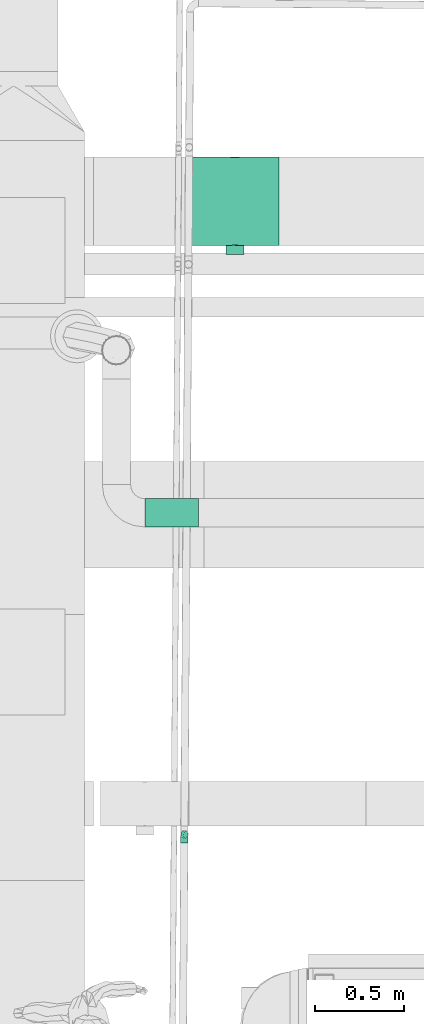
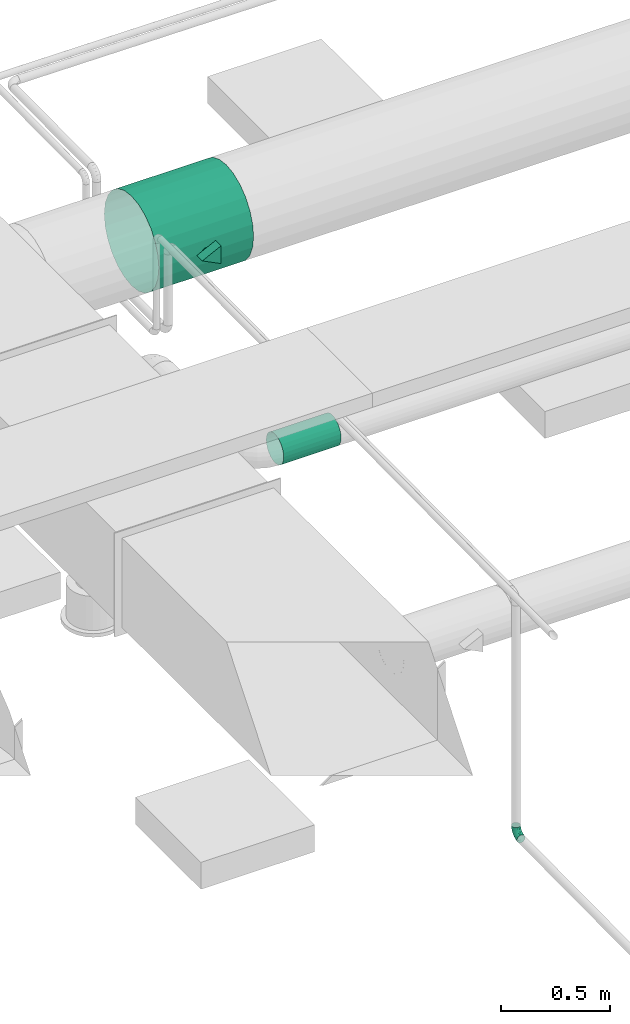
# One storey, part 314 of 374: 2 flow segments, 1 flow controller.
"""IFC2X3 building model written with IfcOpenShell, lengths in metres."""

from ifc_helpers import new_model, si_unit, direction, origin, place, context, subcontext, project, spatial, open_shell, surface_model, source, transform, mapped, element, save


model = new_model("IFC2X3")

# Units and contexts
model_context = context("Model", 3, precision=1e-05, world=origin(), true_north=direction((-0.4480736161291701, 0.8939966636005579)))
body_context = subcontext(model_context, "Body", "Model", "MODEL_VIEW")
ifc_project = project(units=[si_unit("LENGTHUNIT", "METRE"), si_unit("AREAUNIT", "SQUARE_METRE"), si_unit("VOLUMEUNIT", "CUBIC_METRE"), si_unit("PLANEANGLEUNIT", "RADIAN"), si_unit("THERMODYNAMICTEMPERATUREUNIT", "KELVIN"), si_unit("MASSUNIT", "GRAM", prefix="KILO"), si_unit("TIMEUNIT", "SECOND")], contexts=[model_context])

# Site, building, storey
site_placement = place(None, origin())
site = spatial("IfcSite", under=ifc_project, at=site_placement, Name="Site 1", CompositionType="ELEMENT")
building_placement = place(site_placement, origin())
building = spatial("IfcBuilding", under=site, at=building_placement, Name="Undefined", CompositionType="ELEMENT")
storey_placement = place(building_placement, origin())
storey = spatial("IfcBuildingStorey", under=building, at=storey_placement, Name="Rez de chauss\x8ee", CompositionType="ELEMENT", Elevation=0.0)

# Flow controller
shared_shape_1 = source(origin(), body_context, "Body", "SurfaceModel", [
    surface_model("IfcFaceBasedSurfaceModel", [(0.06561793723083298, 0.0, -4.4408921e-16), (0.07081075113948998, 0.04972961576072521, -4.4408921e-16), (0.005900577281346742, 0.056507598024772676, -4.4408921e-16), (0.0, 0.0, 0.0), (-0.056797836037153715, 0.0630546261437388, -0.01689133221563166), (-0.06477347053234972, -0.01332501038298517, -0.01689133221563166), (-0.11301169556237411, 0.0689245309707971, -0.04952288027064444), (-0.12428826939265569, -0.03906695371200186, -0.04952288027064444), (-0.1589101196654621, 0.07371728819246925, -0.09567085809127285), (-0.17448856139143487, -0.07547155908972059, -0.09567085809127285), (-0.19136520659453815, 0.07710627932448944, -0.15219035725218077), (-0.2119532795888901, -0.12005791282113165, -0.15219035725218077), (-0.20816519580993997, 0.0788605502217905, -0.21522966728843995), (-0.23412926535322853, -0.16978752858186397, -0.21522966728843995), (-0.20816519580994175, 0.0788605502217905, -0.2804927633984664), (-0.23950526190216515, -0.22127141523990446, -0.2804927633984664), (-0.1913652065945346, 0.07710627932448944, -0.3435320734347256), (-0.22771490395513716, -0.27100103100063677, -0.3435320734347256), (-0.15891011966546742, 0.07371728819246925, -0.40005157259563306), (-0.19956168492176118, -0.31558738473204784, -0.40005157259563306), (-0.11301169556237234, 0.0689245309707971, -0.4461995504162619), (-0.1569642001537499, -0.3519919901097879, -0.4461995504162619), (-0.05679783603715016, 0.0630546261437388, -0.47883109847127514), (-0.10282539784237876, -0.37773393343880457, -0.47883109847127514), (0.005900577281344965, 0.056507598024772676, -0.49572243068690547), (-0.040834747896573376, -0.39105894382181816, -0.49572243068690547), (0.0708107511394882, 0.04972961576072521, -0.49572243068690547), (0.024783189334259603, -0.39105894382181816, -0.49572243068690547), (0.13350916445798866, 0.04318258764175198, -0.47883109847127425), (0.0895566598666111, -0.377733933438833, -0.47883109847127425), (0.18972302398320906, 0.03731268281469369, -0.44619955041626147), (0.1490714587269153, -0.3519919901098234, -0.44619955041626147), (0.23562144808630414, 0.03251992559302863, -0.40005157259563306), (0.19927175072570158, -0.3155873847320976, -0.40005157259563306), (0.2680765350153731, 0.029130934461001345, -0.34353207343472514), (0.2367364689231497, -0.2710010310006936, -0.34353207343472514), (0.28487652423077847, 0.027376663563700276, -0.2804927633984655), (0.2589124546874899, -0.2212714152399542, -0.2804927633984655), (0.2848765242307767, 0.027376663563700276, -0.2152296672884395), (0.26428845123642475, -0.1697875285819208, -0.2152296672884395), (0.26807653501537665, 0.02913093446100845, -0.15219035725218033), (0.25249809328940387, -0.12005791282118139, -0.15219035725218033), (0.23562144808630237, 0.032519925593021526, -0.09567085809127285), (0.2243448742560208, -0.07547155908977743, -0.09567085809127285), (0.18972302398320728, 0.03731268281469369, -0.049522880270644), (0.18174738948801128, -0.03906695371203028, -0.049522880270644), (0.1335091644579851, 0.043182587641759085, -0.016891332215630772), (0.12760858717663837, -0.013325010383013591, -0.016891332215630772), (0.01888261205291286, -0.44756654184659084, -4.4408921e-16), (-0.04602756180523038, -0.44078855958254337, -4.4408921e-16), (-0.10872597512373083, -0.43424153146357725, -0.01689133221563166), (-0.16493983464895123, -0.42837162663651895, -0.04952288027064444), (-0.2108382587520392, -0.4235788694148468, -0.09567085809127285), (-0.24329334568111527, -0.4201898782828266, -0.15219035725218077), (-0.2600933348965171, -0.41843560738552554, -0.21522966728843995), (-0.26009333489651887, -0.41843560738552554, -0.2804927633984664), (-0.24329334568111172, -0.4201898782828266, -0.3435320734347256), (-0.21083825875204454, -0.4235788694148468, -0.40005157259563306), (-0.16493983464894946, -0.42837162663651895, -0.4461995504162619), (-0.10872597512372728, -0.43424153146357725, -0.47883109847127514), (-0.04602756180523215, -0.44078855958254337, -0.49572243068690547), (0.018882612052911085, -0.44756654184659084, -0.49572243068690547), (0.08158102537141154, -0.45411356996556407, -0.47883109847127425), (0.13779488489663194, -0.45998347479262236, -0.44619955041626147), (0.18369330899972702, -0.4647762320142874, -0.40005157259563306), (0.21614839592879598, -0.4681652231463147, -0.34353207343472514), (0.23294838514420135, -0.46991949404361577, -0.2804927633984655), (0.23294838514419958, -0.46991949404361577, -0.2152296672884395), (0.21614839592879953, -0.4681652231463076, -0.15219035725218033), (0.18369330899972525, -0.4647762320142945, -0.09567085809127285), (0.13779488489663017, -0.45998347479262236, -0.049522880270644), (0.08158102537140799, -0.45411356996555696, -0.016891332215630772), (0.2621579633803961, -0.22161031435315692, -0.2557066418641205), (0.2627193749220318, -0.21516328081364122, -0.25655120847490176), (-0.23032234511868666, -0.163679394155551, -0.1912881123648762), (-0.23088375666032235, -0.1701264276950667, -0.19044354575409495), (0.2630213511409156, -0.20913250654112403, -0.2590273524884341), (-0.23002036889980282, -0.1576486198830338, -0.19376425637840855), (0.2630433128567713, -0.20392897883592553, -0.2629663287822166), (-0.22999840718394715, -0.1524450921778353, -0.19770323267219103), (0.262783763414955, -0.1999073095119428, -0.268099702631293), (-0.23025795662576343, -0.14842342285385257, -0.20283660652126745), (0.2622603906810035, -0.197341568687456, -0.27407764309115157), (-0.23078132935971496, -0.14585768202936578, -0.208814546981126), (0.2615088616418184, -0.1964066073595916, -0.2804927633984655), (-0.23153285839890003, -0.14492272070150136, -0.21522966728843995), (0.2605803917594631, -0.1971661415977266, -0.2869078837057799), (-0.23246132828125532, -0.14568225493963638, -0.22164478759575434), (0.25953825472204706, -0.19956841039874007, -0.29288582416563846), (-0.2335034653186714, -0.14808452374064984, -0.2276227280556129), (0.2584534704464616, -0.20344970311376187, -0.2980191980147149), (-0.23458824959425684, -0.15196581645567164, -0.23275610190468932), (0.2573999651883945, -0.20854551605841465, -0.30195817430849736), (-0.23564175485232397, -0.15706162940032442, -0.2366950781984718), (0.25644953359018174, -0.21450857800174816, -0.3044343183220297), (-0.2365921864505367, -0.16302469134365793, -0.23917122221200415), (0.25566694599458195, -0.22093251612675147, -0.30527888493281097), (-0.2373747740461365, -0.16944862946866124, -0.2400157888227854), (0.25510553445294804, -0.22737954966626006, -0.3044343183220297), (-0.2379361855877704, -0.17589566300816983, -0.23917122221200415), (0.2548035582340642, -0.23341032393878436, -0.30195817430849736), (-0.23823816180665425, -0.18192643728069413, -0.2366950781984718), (0.2547815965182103, -0.23861385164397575, -0.2980191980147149), (-0.23826012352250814, -0.18712996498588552, -0.23275610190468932), (0.2550411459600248, -0.2426355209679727, -0.29288582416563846), (-0.23800057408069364, -0.19115163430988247, -0.2276227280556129), (0.25556451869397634, -0.2452012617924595, -0.2869078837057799), (-0.2374772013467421, -0.19371737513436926, -0.22164478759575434), (0.2563160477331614, -0.2461362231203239, -0.2804927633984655), (-0.23672567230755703, -0.19465233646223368, -0.21522966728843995), (0.2572445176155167, -0.2453766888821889, -0.27407764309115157), (-0.23579720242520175, -0.19389280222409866, -0.208814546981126), (0.25828665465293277, -0.24297442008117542, -0.268099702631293), (-0.23475506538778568, -0.1914905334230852, -0.20283660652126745), (0.25937143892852, -0.2390931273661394, -0.2629663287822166), (-0.23367028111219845, -0.18760924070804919, -0.19770323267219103), (0.26042494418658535, -0.23399731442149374, -0.2590273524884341), (-0.2326167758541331, -0.1825134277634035, -0.19376425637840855), (0.2613753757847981, -0.22803425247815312, -0.25655120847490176), (-0.23166634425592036, -0.1765503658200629, -0.1912881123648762), (-0.24581309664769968, -0.21883934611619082, -0.26480191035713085), (-0.2328310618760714, -0.22019494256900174, -0.1656574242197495), (-0.2821352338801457, -0.21504655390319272, -0.15913111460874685), (-0.295117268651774, -0.2136909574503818, -0.2582756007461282), (-0.22893645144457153, -0.12005791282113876, -0.21522966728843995), (-0.27824062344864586, -0.11490952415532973, -0.2087033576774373)], [open_shell([[[0, 1, 2, 3]], [[3, 2, 4, 5]], [[5, 4, 6, 7]], [[7, 6, 8, 9]], [[9, 8, 10, 11]], [[11, 10, 12, 13]], [[13, 12, 14, 15]], [[15, 14, 16, 17]], [[17, 16, 18, 19]], [[19, 18, 20, 21]], [[21, 20, 22, 23]], [[23, 22, 24, 25]], [[25, 24, 26, 27]], [[27, 26, 28, 29]], [[29, 28, 30, 31]], [[31, 30, 32, 33]], [[33, 32, 34, 35]], [[35, 34, 36, 37]], [[37, 36, 38, 39]], [[39, 38, 40, 41]], [[41, 40, 42, 43]], [[43, 42, 44, 45]], [[45, 44, 46, 47]], [[47, 46, 1, 0]], [[48, 0, 3, 49]], [[49, 3, 5, 50]], [[50, 5, 7, 51]], [[51, 7, 9, 52]], [[52, 9, 11, 53]], [[53, 11, 13, 54]], [[54, 13, 15, 55]], [[55, 15, 17, 56]], [[56, 17, 19, 57]], [[57, 19, 21, 58]], [[58, 21, 23, 59]], [[59, 23, 25, 60]], [[60, 25, 27, 61]], [[61, 27, 29, 62]], [[62, 29, 31, 63]], [[63, 31, 33, 64]], [[64, 33, 35, 65]], [[65, 35, 37, 66]], [[66, 37, 39, 67]], [[67, 39, 41, 68]], [[68, 41, 43, 69]], [[69, 43, 45, 70]], [[70, 45, 47, 71]], [[71, 47, 0, 48]], [[72, 73, 74, 75]], [[73, 76, 77, 74]], [[76, 78, 79, 77]], [[78, 80, 81, 79]], [[80, 82, 83, 81]], [[82, 84, 85, 83]], [[84, 86, 87, 85]], [[86, 88, 89, 87]], [[88, 90, 91, 89]], [[90, 92, 93, 91]], [[92, 94, 95, 93]], [[94, 96, 97, 95]], [[96, 98, 99, 97]], [[98, 100, 101, 99]], [[100, 102, 103, 101]], [[102, 104, 105, 103]], [[104, 106, 107, 105]], [[106, 108, 109, 107]], [[108, 110, 111, 109]], [[110, 112, 113, 111]], [[112, 114, 115, 113]], [[114, 116, 117, 115]], [[116, 118, 119, 117]], [[118, 72, 75, 119]], [[37, 73, 72]], [[37, 76, 73]], [[37, 78, 76]], [[37, 80, 78]], [[37, 82, 80]], [[37, 84, 82]], [[37, 86, 84]], [[37, 88, 86]], [[37, 90, 88]], [[37, 92, 90]], [[37, 94, 92]], [[37, 96, 94]], [[37, 98, 96]], [[37, 100, 98]], [[37, 102, 100]], [[37, 104, 102]], [[37, 106, 104]], [[37, 108, 106]], [[37, 110, 108]], [[37, 112, 110]], [[37, 114, 112]], [[37, 116, 114]], [[37, 118, 116]], [[37, 72, 118]], [[13, 119, 75]], [[13, 117, 119]], [[13, 115, 117]], [[13, 113, 115]], [[13, 111, 113]], [[13, 109, 111]], [[13, 107, 109]], [[13, 105, 107]], [[13, 103, 105]], [[13, 101, 103]], [[13, 99, 101]], [[13, 97, 99]], [[13, 95, 97]], [[13, 93, 95]], [[13, 91, 93]], [[13, 89, 91]], [[13, 87, 89]], [[13, 85, 87]], [[13, 83, 85]], [[13, 81, 83]], [[13, 79, 81]], [[13, 77, 79]], [[13, 74, 77]], [[13, 75, 74]], [[120, 121, 122, 123]], [[121, 124, 125, 122]], [[124, 120, 123, 125]], [[123, 122, 125]], [[124, 121, 120]]])]),
])
flow_controller_placement = place(storey_placement, origin())
element("IfcFlowController", 1, at=flow_controller_placement, inside=storey, Name="Clapet de réglage cylindrique", ObjectType="Clapet de réglage cylindrique", context=body_context, shape_type="MappedRepresentation", body=[
    mapped(shared_shape_1, transform((52.991809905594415, 17.649561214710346, 4.041481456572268), x_axis=(-0.10385627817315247, 0.9860834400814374, 0.12982034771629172), y_axis=(-0.9945923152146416, -0.10296777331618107, -0.013555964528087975), z_axis=(0.0, -0.1305261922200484, 0.9914448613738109))),
])

# Flow segments
shared_shape_2 = source(origin(), body_context, "Body", "SurfaceModel", [
    surface_model("IfcFaceBasedSurfaceModel", [(0.0, 0.020884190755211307, 0.0), (0.0, 0.0, 0.0), (0.30333805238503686, 3.552713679e-15, 0.0), (0.30333805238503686, 0.02088419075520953, 0.0), (0.0, -0.020172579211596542, -0.005405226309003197), (0.30333805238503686, -0.02017257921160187, -0.005405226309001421), (0.0, -0.03825881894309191, -0.015847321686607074), (0.30333805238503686, -0.03825881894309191, -0.01584732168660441), (0.0, -0.05302617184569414, -0.0306146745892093), (0.30333805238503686, -0.05302617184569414, -0.030614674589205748), (0.0, -0.06346826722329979, -0.04870091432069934), (0.30333805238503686, -0.06346826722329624, -0.04870091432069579), (0.0, -0.06887349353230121, -0.06887349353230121), (0.30333805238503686, -0.06887349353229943, -0.06887349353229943), (0.0, -0.06887349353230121, -0.08975768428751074), (0.30333805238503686, -0.06887349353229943, -0.08975768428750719), (0.0, -0.06346826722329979, -0.10993026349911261), (0.30333805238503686, -0.06346826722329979, -0.10993026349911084), (0.0, -0.05302617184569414, -0.12801650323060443), (0.30333805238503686, -0.05302617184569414, -0.12801650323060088), (0.0, -0.038258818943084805, -0.14278385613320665), (0.30333805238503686, -0.038258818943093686, -0.1427838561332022), (0.0, -0.020172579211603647, -0.15322595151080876), (0.30333805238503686, -0.02017257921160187, -0.15322595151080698), (0.0, 7.105427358e-15, -0.15863117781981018), (0.30333805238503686, 0.0, -0.1586311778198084), (0.0, 0.020884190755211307, -0.15863117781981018), (0.30333805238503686, 0.020884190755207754, -0.1586311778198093), (0.0, 0.04105676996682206, -0.15322595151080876), (0.30333805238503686, 0.041056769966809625, -0.15322595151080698), (0.0, 0.05914300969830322, -0.1427838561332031), (0.30333805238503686, 0.05914300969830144, -0.142783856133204), (0.0, 0.07391036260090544, -0.12801650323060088), (0.30333805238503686, 0.07391036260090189, -0.12801650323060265), (0.0, 0.0843524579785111, -0.10993026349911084), (0.30333805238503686, 0.08435245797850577, -0.10993026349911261), (0.0, 0.08975768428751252, -0.08975768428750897), (0.30333805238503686, 0.08975768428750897, -0.08975768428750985), (0.0, 0.08975768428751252, -0.06887349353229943), (0.30333805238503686, 0.08975768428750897, -0.06887349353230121), (0.0, 0.0843524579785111, -0.048700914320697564), (0.30333805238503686, 0.08435245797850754, -0.048700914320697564), (0.0, 0.07391036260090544, -0.030614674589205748), (0.30333805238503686, 0.07391036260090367, -0.030614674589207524), (0.0, 0.05914300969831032, -0.015847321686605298), (0.30333805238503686, 0.05914300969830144, -0.015847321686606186), (0.0, 0.04105676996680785, -0.005405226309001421), (0.30333805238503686, 0.04105676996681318, -0.005405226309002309)], [open_shell([[[0, 1, 2, 3]], [[1, 4, 5, 2]], [[4, 6, 7, 5]], [[6, 8, 9, 7]], [[8, 10, 11, 9]], [[10, 12, 13, 11]], [[12, 14, 15, 13]], [[14, 16, 17, 15]], [[16, 18, 19, 17]], [[18, 20, 21, 19]], [[20, 22, 23, 21]], [[22, 24, 25, 23]], [[24, 26, 27, 25]], [[26, 28, 29, 27]], [[28, 30, 31, 29]], [[30, 32, 33, 31]], [[32, 34, 35, 33]], [[34, 36, 37, 35]], [[36, 38, 39, 37]], [[38, 40, 41, 39]], [[40, 42, 43, 41]], [[42, 44, 45, 43]], [[44, 46, 47, 45]], [[46, 0, 3, 47]]])]),
])
flow_segment_1_placement = place(storey_placement, origin())
element("IfcFlowSegment", 2, at=flow_segment_1_placement, inside=storey, Name="Tube", ObjectType="Tube", context=body_context, shape_type="MappedRepresentation", body=[
    mapped(shared_shape_2, transform((52.9792401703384, 15.934292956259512, 3.7227259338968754), x_axis=(-1.0, 0.0, 0.0), y_axis=(0.0, 0.9914448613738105, -0.13052619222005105), z_axis=(9.56658874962e-13, -0.13052619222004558, -0.9914448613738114))),
])
shared_shape_3 = source(origin(), body_context, "Body", "SurfaceModel", [
    surface_model("IfcFaceBasedSurfaceModel", [(0.01806482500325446, 7.105427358e-15, 0.0), (0.017970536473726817, 0.005533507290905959, 0.0), (9.428852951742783e-05, 0.005533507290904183, 1.776356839e-15), (0.0, 0.0, 0.0), (-0.017172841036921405, 0.00613233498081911, -0.004587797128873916), (-0.01744928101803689, 0.0006051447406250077, -0.004636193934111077), (-0.03265412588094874, 0.007289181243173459, -0.013450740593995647), (-0.0330938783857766, 0.0017741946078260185, -0.013592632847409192), (-0.045294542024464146, 0.008925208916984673, -0.02598483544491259), (-0.045867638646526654, 0.0034274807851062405, -0.02625895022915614), (-0.054232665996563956, 0.010928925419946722, -0.041335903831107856), (-0.05490005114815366, 0.005452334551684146, -0.04177195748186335), (-0.05885937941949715, 0.013163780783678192, -0.05845779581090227), (-0.059575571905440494, 0.007710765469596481, -0.05907446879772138), (0.01769409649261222, 0.010875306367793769, -0.0014203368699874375), (0.00037072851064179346, 0.010875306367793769, -0.0014203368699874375), (-0.016362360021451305, 0.011455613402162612, -0.005866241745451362), (-0.03136483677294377, 0.012576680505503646, -0.014455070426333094), (-0.04361430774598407, 0.014162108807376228, -0.026601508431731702), (-0.05227599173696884, 0.016103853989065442, -0.0414777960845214), (-0.05675960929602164, 0.018269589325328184, -0.05807013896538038), (0.017254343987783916, 0.015661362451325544, -0.0041642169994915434), (0.0008104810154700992, 0.015661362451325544, -0.004164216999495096), (-0.01507307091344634, 0.016212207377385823, -0.008384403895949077), (-0.029313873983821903, 0.01727635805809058, -0.016537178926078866), (-0.04094144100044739, 0.01878129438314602, -0.02806694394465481), (-0.049163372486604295, 0.02062445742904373, -0.042187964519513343), (-0.05341935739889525, 0.02268023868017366, -0.05793791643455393), (0.016681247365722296, 0.01956551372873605, -0.008044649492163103), (0.001383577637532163, 0.01956551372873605, -0.008044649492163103), (-0.01339283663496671, 0.020077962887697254, -0.011970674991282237), (-0.026641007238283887, 0.021067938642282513, -0.01955517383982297), (-0.03745809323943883, 0.02246797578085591, -0.03028127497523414), (-0.04510692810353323, 0.0241826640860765, -0.04341801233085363), (-0.04906625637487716, 0.026095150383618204, -0.05807013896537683), (0.016013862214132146, 0.022321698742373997, -0.012797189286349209), (0.0020509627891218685, 0.022321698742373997, -0.012797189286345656), (-0.011436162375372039, 0.02278943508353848, -0.016380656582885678), (-0.023528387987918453, 0.02369303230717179, -0.023303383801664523), (-0.03340164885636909, 0.024970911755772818, -0.03309359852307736), (-0.040383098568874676, 0.026535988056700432, -0.04508411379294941), (-0.04399696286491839, 0.028281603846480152, -0.05845779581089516), (0.015297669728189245, 0.023742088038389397, -0.018097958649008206), (0.00276715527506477, 0.023742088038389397, -0.018097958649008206), (-0.009336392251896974, 0.024161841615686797, -0.021313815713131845), (-0.02018813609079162, 0.02497274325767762, -0.0275263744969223), (-0.029048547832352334, 0.02611953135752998, -0.03631225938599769), (-0.03531380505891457, 0.027524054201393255, -0.04707272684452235), (-0.0385569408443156, 0.02909059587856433, -0.05907446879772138), (0.014581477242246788, 0.023729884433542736, -0.02358571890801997), (0.0034833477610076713, 0.023729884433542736, -0.02358571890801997), (-0.007236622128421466, 0.024101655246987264, -0.026433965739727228), (-0.016847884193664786, 0.02481986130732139, -0.03193635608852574), (-0.02469544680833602, 0.02583555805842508, -0.03971791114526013), (-0.0302445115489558, 0.027079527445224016, -0.04924833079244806), (-0.03311691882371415, 0.02846699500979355, -0.059878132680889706), (0.013914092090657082, 0.02228591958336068, -0.02888648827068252), (0.004150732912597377, 0.022285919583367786, -0.028886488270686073), (-0.005279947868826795, 0.022612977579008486, -0.031392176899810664), (-0.013735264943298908, 0.023244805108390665, -0.03623279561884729), (-0.020639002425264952, 0.02413834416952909, -0.04307846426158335), (-0.025520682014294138, 0.025232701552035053, -0.051462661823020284), (-0.028047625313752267, 0.026453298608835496, -0.060814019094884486), (0.013340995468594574, 0.01950859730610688, -0.03363902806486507), (0.0047238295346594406, 0.01950859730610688, -0.033639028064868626), (-0.0035997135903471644, 0.019797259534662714, -0.035850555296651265), (-0.011062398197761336, 0.0203549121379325, -0.04012289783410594), (-0.017155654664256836, 0.021143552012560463, -0.04616490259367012), (-0.02146423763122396, 0.022109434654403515, -0.05356481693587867), (-0.02369452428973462, 0.023186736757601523, -0.06181834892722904), (0.012901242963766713, 0.015587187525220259, -0.037519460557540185), (0.005163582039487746, 0.015587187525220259, -0.03751946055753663), (-0.0023104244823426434, 0.015846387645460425, -0.03950526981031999), (-0.009011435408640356, 0.016347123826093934, -0.043341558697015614), (-0.01448278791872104, 0.017055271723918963, -0.048766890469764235), (-0.018351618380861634, 0.017922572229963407, -0.05541153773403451), (-0.02035427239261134, 0.018889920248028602, -0.06282267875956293), (0.012624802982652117, 0.010788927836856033, -0.040263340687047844), (0.005440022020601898, 0.010788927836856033, -0.0402633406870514), (-0.0014999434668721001, 0.011029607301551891, -0.04210725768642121), (-0.007722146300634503, 0.01149456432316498, -0.045669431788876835), (-0.012802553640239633, 0.012152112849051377, -0.05070710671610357), (-0.0163949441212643, 0.012957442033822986, -0.056876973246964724), (-0.018254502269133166, 0.013855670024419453, -0.06375856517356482), (0.012530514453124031, 0.005440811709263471, -0.041683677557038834), (0.005534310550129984, 0.0054408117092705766, -0.041683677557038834), (-0.0012235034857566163, 0.005675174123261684, -0.04347919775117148), (-0.007282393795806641, 0.006127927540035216, -0.046947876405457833), (-0.012229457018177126, 0.0067682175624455, -0.05185332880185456), (-0.015727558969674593, 0.007552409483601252, -0.05786125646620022), (-0.01753830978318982, 0.008427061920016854, -0.0645622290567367), (0.012624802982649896, -9.26955816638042e-05, -0.04168367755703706), (0.005440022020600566, -9.269558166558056e-05, -0.04168367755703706), (-0.0014999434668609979, 0.00014798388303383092, -0.0435275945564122), (-0.007722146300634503, 0.0006129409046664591, -0.047089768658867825), (-0.012802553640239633, 0.001270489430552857, -0.05212744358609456), (-0.0163949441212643, 0.002075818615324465, -0.058297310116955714), (-0.018254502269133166, 0.0029740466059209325, -0.06517890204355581), (0.012901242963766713, -0.005434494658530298, -0.0402633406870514), (0.005163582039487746, -0.005434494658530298, -0.040263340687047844), (-0.0023104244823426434, -0.005175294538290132, -0.0422491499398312), (-0.009011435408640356, -0.004674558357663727, -0.046085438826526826), (-0.01448278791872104, -0.0039664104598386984, -0.051510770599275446), (-0.018351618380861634, -0.0030991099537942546, -0.05815541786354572), (-0.02035427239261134, -0.0021317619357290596, -0.06556655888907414), (0.013340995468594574, -0.010220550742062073, -0.03751946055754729), (0.0047238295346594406, -0.010220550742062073, -0.03751946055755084), (-0.0035997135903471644, -0.009931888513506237, -0.03973098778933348), (-0.011062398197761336, -0.009374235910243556, -0.04400333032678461), (-0.017155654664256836, -0.00858559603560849, -0.05004533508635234), (-0.02146423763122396, -0.007619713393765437, -0.057445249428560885), (-0.02369452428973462, -0.006542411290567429, -0.06569878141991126), (0.013914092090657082, -0.01412470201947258, -0.03363902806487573), (0.004150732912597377, -0.014124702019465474, -0.033639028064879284), (-0.005279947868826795, -0.013797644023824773, -0.036144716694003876), (-0.013735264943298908, -0.013165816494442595, -0.0409853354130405), (-0.020639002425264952, -0.012272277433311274, -0.04783100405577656), (-0.025520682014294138, -0.011177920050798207, -0.05621520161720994), (-0.028047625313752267, -0.009957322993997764, -0.0655665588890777), (0.014581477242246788, -0.01688088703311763, -0.028886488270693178), (0.0034833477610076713, -0.01688088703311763, -0.028886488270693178), (-0.007236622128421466, -0.016509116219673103, -0.031734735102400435), (-0.016847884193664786, -0.015790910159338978, -0.03723712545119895), (-0.02469544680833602, -0.014775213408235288, -0.04501868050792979), (-0.0302445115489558, -0.01353124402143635, -0.054549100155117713), (-0.03311691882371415, -0.012143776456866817, -0.06517890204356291), (0.015297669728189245, -0.01830127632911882, -0.02358571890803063), (0.00276715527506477, -0.01830127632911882, -0.02358571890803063), (-0.009336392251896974, -0.01788152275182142, -0.026801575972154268), (-0.02018813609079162, -0.017070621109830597, -0.033014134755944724), (-0.029048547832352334, -0.01592383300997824, -0.04180001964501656), (-0.03531380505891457, -0.014519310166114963, -0.05256048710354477), (-0.0385569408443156, -0.012952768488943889, -0.06456222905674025), (0.016013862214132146, -0.01828907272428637, -0.018097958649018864), (0.0020509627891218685, -0.01828907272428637, -0.018097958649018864), (-0.011436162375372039, -0.01782133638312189, -0.021681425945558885), (-0.023528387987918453, -0.016917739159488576, -0.02860415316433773), (-0.03340164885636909, -0.01563985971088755, -0.038394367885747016), (-0.040383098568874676, -0.014074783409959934, -0.05038488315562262), (-0.04399696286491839, -0.012329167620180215, -0.06375856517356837), (0.016681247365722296, -0.01684510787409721, -0.012797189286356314), (0.001383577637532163, -0.01684510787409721, -0.012797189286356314), (-0.01339283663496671, -0.016332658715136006, -0.01672321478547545), (-0.026641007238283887, -0.015342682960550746, -0.02430771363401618), (-0.03745809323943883, -0.01394264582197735, -0.03503381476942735), (-0.04510692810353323, -0.01222795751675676, -0.04817055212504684), (-0.04906625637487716, -0.010315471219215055, -0.06282267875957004), (0.017254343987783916, -0.014067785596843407, -0.008044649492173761), (0.0008104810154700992, -0.014067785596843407, -0.008044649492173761), (-0.01507307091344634, -0.013516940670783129, -0.012264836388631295), (-0.029313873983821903, -0.012452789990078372, -0.020417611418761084), (-0.04094144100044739, -0.010947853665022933, -0.03194737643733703), (-0.049163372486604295, -0.009104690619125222, -0.04606839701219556), (-0.05341935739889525, -0.007048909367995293, -0.06181834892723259), (0.01769409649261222, -0.010146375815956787, -0.004164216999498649), (0.00037072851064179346, -0.010146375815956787, -0.004164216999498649), (-0.016362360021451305, -0.009566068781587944, -0.008610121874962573), (-0.03136483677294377, -0.008445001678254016, -0.017198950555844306), (-0.04361430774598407, -0.006859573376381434, -0.029345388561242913), (-0.05227599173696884, -0.00491782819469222, -0.04422167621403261), (-0.05675960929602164, -0.002752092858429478, -0.060814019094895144), (0.017970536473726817, -0.0053481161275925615, -0.0014203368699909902), (9.428852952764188e-05, -0.005348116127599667, -0.001420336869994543), (-0.017172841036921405, -0.004749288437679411, -0.006008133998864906), (-0.03265412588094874, -0.0035924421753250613, -0.014871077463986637), (-0.045294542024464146, -0.001956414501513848, -0.02740517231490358), (-0.054232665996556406, 4.730200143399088e-05, -0.04275624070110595), (-0.05885937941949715, 0.002282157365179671, -0.05987813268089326)], [open_shell([[[0, 1, 2, 3]], [[3, 2, 4, 5]], [[5, 4, 6, 7]], [[7, 6, 8, 9]], [[9, 8, 10, 11]], [[11, 10, 12, 13]], [[1, 14, 15, 2]], [[2, 15, 16, 4]], [[4, 16, 17, 6]], [[6, 17, 18, 8]], [[8, 18, 19, 10]], [[10, 19, 20, 12]], [[14, 21, 22, 15]], [[15, 22, 23, 16]], [[16, 23, 24, 17]], [[17, 24, 25, 18]], [[18, 25, 26, 19]], [[19, 26, 27, 20]], [[21, 28, 29, 22]], [[22, 29, 30, 23]], [[23, 30, 31, 24]], [[24, 31, 32, 25]], [[25, 32, 33, 26]], [[26, 33, 34, 27]], [[28, 35, 36, 29]], [[29, 36, 37, 30]], [[30, 37, 38, 31]], [[31, 38, 39, 32]], [[32, 39, 40, 33]], [[33, 40, 41, 34]], [[35, 42, 43, 36]], [[36, 43, 44, 37]], [[37, 44, 45, 38]], [[38, 45, 46, 39]], [[39, 46, 47, 40]], [[40, 47, 48, 41]], [[42, 49, 50, 43]], [[43, 50, 51, 44]], [[44, 51, 52, 45]], [[45, 52, 53, 46]], [[46, 53, 54, 47]], [[47, 54, 55, 48]], [[49, 56, 57, 50]], [[50, 57, 58, 51]], [[51, 58, 59, 52]], [[52, 59, 60, 53]], [[53, 60, 61, 54]], [[54, 61, 62, 55]], [[56, 63, 64, 57]], [[57, 64, 65, 58]], [[58, 65, 66, 59]], [[59, 66, 67, 60]], [[60, 67, 68, 61]], [[61, 68, 69, 62]], [[63, 70, 71, 64]], [[64, 71, 72, 65]], [[65, 72, 73, 66]], [[66, 73, 74, 67]], [[67, 74, 75, 68]], [[68, 75, 76, 69]], [[70, 77, 78, 71]], [[71, 78, 79, 72]], [[72, 79, 80, 73]], [[73, 80, 81, 74]], [[74, 81, 82, 75]], [[75, 82, 83, 76]], [[77, 84, 85, 78]], [[78, 85, 86, 79]], [[79, 86, 87, 80]], [[80, 87, 88, 81]], [[81, 88, 89, 82]], [[82, 89, 90, 83]], [[84, 91, 92, 85]], [[85, 92, 93, 86]], [[86, 93, 94, 87]], [[87, 94, 95, 88]], [[88, 95, 96, 89]], [[89, 96, 97, 90]], [[91, 98, 99, 92]], [[92, 99, 100, 93]], [[93, 100, 101, 94]], [[94, 101, 102, 95]], [[95, 102, 103, 96]], [[96, 103, 104, 97]], [[98, 105, 106, 99]], [[99, 106, 107, 100]], [[100, 107, 108, 101]], [[101, 108, 109, 102]], [[102, 109, 110, 103]], [[103, 110, 111, 104]], [[105, 112, 113, 106]], [[106, 113, 114, 107]], [[107, 114, 115, 108]], [[108, 115, 116, 109]], [[109, 116, 117, 110]], [[110, 117, 118, 111]], [[112, 119, 120, 113]], [[113, 120, 121, 114]], [[114, 121, 122, 115]], [[115, 122, 123, 116]], [[116, 123, 124, 117]], [[117, 124, 125, 118]], [[119, 126, 127, 120]], [[120, 127, 128, 121]], [[121, 128, 129, 122]], [[122, 129, 130, 123]], [[123, 130, 131, 124]], [[124, 131, 132, 125]], [[126, 133, 134, 127]], [[127, 134, 135, 128]], [[128, 135, 136, 129]], [[129, 136, 137, 130]], [[130, 137, 138, 131]], [[131, 138, 139, 132]], [[133, 140, 141, 134]], [[134, 141, 142, 135]], [[135, 142, 143, 136]], [[136, 143, 144, 137]], [[137, 144, 145, 138]], [[138, 145, 146, 139]], [[140, 147, 148, 141]], [[141, 148, 149, 142]], [[142, 149, 150, 143]], [[143, 150, 151, 144]], [[144, 151, 152, 145]], [[145, 152, 153, 146]], [[147, 154, 155, 148]], [[148, 155, 156, 149]], [[149, 156, 157, 150]], [[150, 157, 158, 151]], [[151, 158, 159, 152]], [[152, 159, 160, 153]], [[154, 161, 162, 155]], [[155, 162, 163, 156]], [[156, 163, 164, 157]], [[157, 164, 165, 158]], [[158, 165, 166, 159]], [[159, 166, 167, 160]], [[161, 0, 3, 162]], [[162, 3, 5, 163]], [[163, 5, 7, 164]], [[164, 7, 9, 165]], [[165, 9, 11, 166]], [[166, 11, 13, 167]]])]),
])
flow_segment_2_placement = place(storey_placement, origin())
element("IfcFlowSegment", 3, at=flow_segment_2_placement, inside=storey, Name="Tube coudé", ObjectType="Tube coudé", context=body_context, shape_type="MappedRepresentation", body=[
    mapped(shared_shape_3, transform((52.89962193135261, 14.157841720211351, 2.7036176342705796), x_axis=(0.0009112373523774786, 0.13052301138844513, 0.9914448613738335), y_axis=(0.9906687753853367, -0.1352404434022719, 0.01689378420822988), z_axis=(0.13628847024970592, 0.9821780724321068, -0.1294283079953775))),
])

save(model, "model.ifc")
